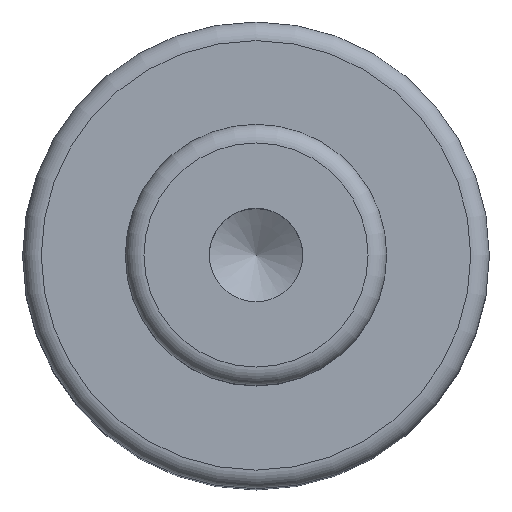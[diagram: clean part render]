
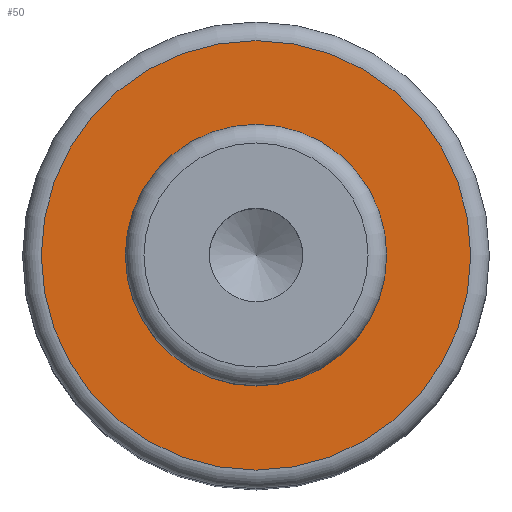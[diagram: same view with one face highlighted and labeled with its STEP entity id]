
A CAD part, top view. The second image highlights one B-rep face of the part: STEP entity #50.
In plain terms, the highlighted planar face has unit normal (0, 0, 1).
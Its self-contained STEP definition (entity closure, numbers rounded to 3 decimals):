
#40=PLANE('',#179);
#50=ADVANCED_FACE('',(#72,#73),#40,.F.);
#72=FACE_BOUND('',#96,.T.);
#73=FACE_BOUND('',#97,.T.);
#96=EDGE_LOOP('',(#118));
#97=EDGE_LOOP('',(#119));
#118=ORIENTED_EDGE('',*,*,#149,.F.);
#119=ORIENTED_EDGE('',*,*,#148,.T.);
#135=VERTEX_POINT('',#256);
#136=VERTEX_POINT('',#259);
#148=EDGE_CURVE('',#135,#135,#159,.T.);
#149=EDGE_CURVE('',#136,#136,#160,.T.);
#159=CIRCLE('',#176,7.);
#160=CIRCLE('',#178,11.5);
#176=AXIS2_PLACEMENT_3D('',#255,#213,#214);
#178=AXIS2_PLACEMENT_3D('',#258,#217,#218);
#179=AXIS2_PLACEMENT_3D('',#260,#219,#220);
#213=DIRECTION('',(0.,0.,-1.));
#214=DIRECTION('',(-1.,0.,0.));
#217=DIRECTION('',(0.,0.,-1.));
#218=DIRECTION('',(-1.,0.,0.));
#219=DIRECTION('',(0.,0.,-1.));
#220=DIRECTION('',(-1.,0.,0.));
#255=CARTESIAN_POINT('',(0.,0.,39.));
#256=CARTESIAN_POINT('',(-7.,0.,39.));
#258=CARTESIAN_POINT('',(0.,0.,39.));
#259=CARTESIAN_POINT('',(-11.5,0.,39.));
#260=CARTESIAN_POINT('',(7.,0.,39.));
